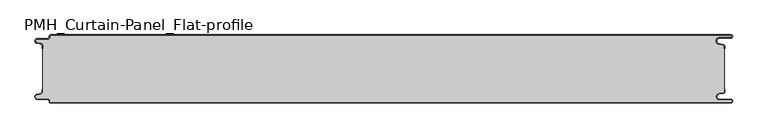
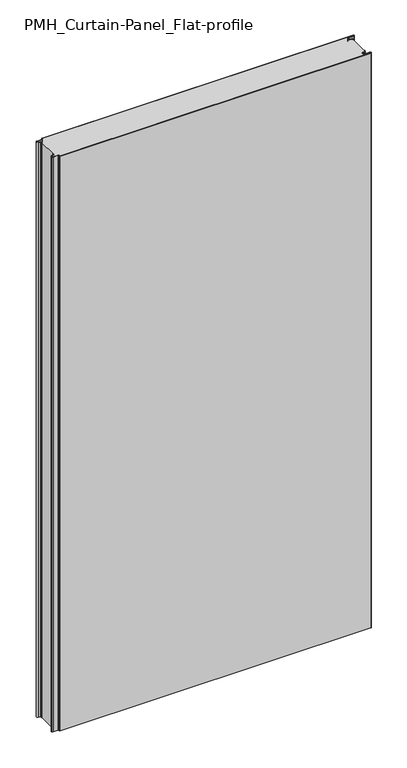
"""IFC4 building model written with IfcOpenShell, lengths in millimetres: plate geometry, PMH_Curtain-Panel_Flat-profile : ACH_PMH_Stone-wool-Panel_100M."""

from ifc_helpers import new_model, si_unit, point, frame, frame_2d, origin, origin_with_axes, place, context, project, spatial, polyline, circle_curve, trimmed, segment, composite_curve, outline, extrude, source, transform, mapped, element, save
from ifc_brep_helpers import plane_surface, cylinder_surface, revolved_surface, advanced_brep


def pmh_curtain_panel_flat_profile_5727f60d(model_context):
    return source(origin(), model_context, "Body", "SolidModel", [
        advanced_brep(
        [(508.1, 0.0, 1945.7507136), (-487.4, 0.0, 1945.7507136), (-489.4, -2.0, 1945.7507136), (-489.4, -3.4, 1945.7507136), (-491.4, -5.4, 1945.7507136), (-506.9, -5.4, 1945.7507136), (-507.7098239, -12.5077322, 1945.7507136), (-501.5500979, -13.929817, 1945.7507136), (-500.0, -15.878557, 1945.7507136), (-500.0, -20.0, 1945.7507136), (-499.2, -20.0, 1945.7507136), (-499.2, -15.878557, 1945.7507136), (-501.370137, -13.1503208, 1945.7507136), (-507.529863, -11.728236, 1945.7507136), (-506.9, -6.2, 1945.7507136), (-491.4, -6.2, 1945.7507136), (-488.6, -3.4, 1945.7507136), (-488.6, -2.0, 1945.7507136), (-487.4, -0.8, 1945.7507136), (508.1, -0.8, 1945.7507136), (508.1, -4.2, 1945.7507136), (491.1, -4.2, 1945.7507136), (490.2664884, -13.7270771, 1945.7507136), (496.7125669, -14.8636953, 1945.7507136), (498.2, -16.6363492, 1945.7507136), (498.2, -20.0, 1945.7507136), (499.0, -20.0, 1945.7507136), (499.0, -16.6363492, 1945.7507136), (496.8514855, -14.0758491, 1945.7507136), (490.405407, -12.939231, 1945.7507136), (491.1, -5.0, 1945.7507136), (508.1, -5.0, 1945.7507136), (510.6, -2.5000002, 1945.7507136), (-487.4, 0.0, 0.0), (508.1, 0.0, 0.0), (510.6, -2.4999998, 0.0), (508.1, -5.0, 0.0), (491.1, -5.0, 0.0), (490.405407, -12.939231, 0.0), (496.8514855, -14.0758491, 0.0), (499.0, -16.6363492, 0.0), (499.0, -20.0, 0.0), (498.2, -20.0, 0.0), (498.2, -16.6363492, 0.0), (496.7125669, -14.8636953, 0.0), (490.2664884, -13.7270771, 0.0), (491.1, -4.2, 0.0), (508.1, -4.2, 0.0), (508.1, -0.8, 0.0), (-487.4, -0.8, 0.0), (-488.6, -2.0, 0.0), (-488.6, -3.4, 0.0), (-491.4, -6.2, 0.0), (-506.9, -6.2, 0.0), (-507.529863, -11.7282362, 0.0), (-501.370137, -13.150321, 0.0), (-499.2, -15.878557, 0.0), (-499.2, -20.0, 0.0), (-500.0, -20.0, 0.0), (-500.0, -15.878557, 0.0), (-501.5500978, -13.9298169, 0.0), (-507.7098239, -12.507732, 0.0), (-506.9, -5.4, 0.0), (-491.4, -5.4, 0.0), (-489.4, -3.4, 0.0), (-489.4, -2.0, 0.0)],
        [
            (0, 1),
            (1, 2, circle_curve(frame((-487.4, -2.0, 1945.7507136), z_axis=(0.0, 0.0, 1.0), x_axis=(1.0, 0.0, 0.0)), 2.0)),
            (2, 3),
            (3, 4, circle_curve(frame((-491.4, -3.4, 1945.7507136), z_axis=(0.0, 0.0, -1.0), x_axis=(1.0, 0.0, 0.0)), 2.0)),
            (4, 5),
            (5, 6, circle_curve(frame((-506.9, -9.0, 1945.7507136), z_axis=(0.0, 0.0, 1.0), x_axis=(1.0, 0.0, 0.0)), 3.6)),
            (6, 7),
            (7, 8, circle_curve(frame((-502.0, -15.878557, 1945.7507136), z_axis=(0.0, 0.0, -1.0), x_axis=(1.0, 0.0, 0.0)), 2.0)),
            (8, 9),
            (9, 10),
            (10, 11),
            (11, 12, circle_curve(frame((-502.0, -15.878557, 1945.7507136), z_axis=(0.0, 0.0, 1.0), x_axis=(1.0, 0.0, 0.0)), 2.8)),
            (12, 13),
            (13, 14, circle_curve(frame((-506.9, -9.0, 1945.7507136), z_axis=(0.0, 0.0, -1.0), x_axis=(1.0, 0.0, 0.0)), 2.8)),
            (14, 15),
            (15, 16, circle_curve(frame((-491.4, -3.4, 1945.7507136), z_axis=(0.0, 0.0, 1.0), x_axis=(1.0, 0.0, 0.0)), 2.8)),
            (16, 17),
            (17, 18, circle_curve(frame((-487.4, -2.0, 1945.7507136), z_axis=(0.0, 0.0, -1.0), x_axis=(1.0, 0.0, 0.0)), 1.2)),
            (18, 19),
            (19, 20, circle_curve(frame((508.1, -2.5, 1945.7507136), z_axis=(0.0, 0.0, -1.0), x_axis=(1.0, 0.0, 0.0)), 1.7)),
            (20, 21),
            (21, 22, circle_curve(frame((491.1, -9.0, 1945.7507136), z_axis=(0.0, 0.0, 1.0), x_axis=(1.0, 0.0, 0.0)), 4.8)),
            (22, 23),
            (23, 24, circle_curve(frame((496.4, -16.6363492, 1945.7507136), z_axis=(0.0, 0.0, -1.0), x_axis=(1.0, 0.0, 0.0)), 1.8)),
            (24, 25),
            (25, 26),
            (26, 27),
            (27, 28, circle_curve(frame((496.4, -16.6363492, 1945.7507136), z_axis=(0.0, 0.0, 1.0), x_axis=(1.0, 0.0, 0.0)), 2.6)),
            (28, 29),
            (29, 30, circle_curve(frame((491.1, -9.0, 1945.7507136), z_axis=(0.0, 0.0, -1.0), x_axis=(1.0, 0.0, 0.0)), 4.0)),
            (30, 31),
            (31, 32, circle_curve(frame((508.1, -2.5, 1945.7507136), z_axis=(0.0, 0.0, 1.0), x_axis=(1.0, 0.0, 0.0)), 2.5)),
            (32, 0, circle_curve(frame((508.1, -2.5, 1945.7507136), z_axis=(0.0, 0.0, 1.0), x_axis=(1.0, 0.0, 0.0)), 2.5)),
            (33, 34),
            (34, 35, circle_curve(frame((508.1, -2.5, 0.0), z_axis=(0.0, 0.0, -1.0), x_axis=(1.0, 0.0, 0.0)), 2.5)),
            (35, 36, circle_curve(frame((508.1, -2.5, 0.0), z_axis=(0.0, 0.0, -1.0), x_axis=(1.0, 0.0, 0.0)), 2.5)),
            (36, 37),
            (37, 38, circle_curve(frame((491.1, -9.0, 0.0), z_axis=(0.0, 0.0, 1.0), x_axis=(1.0, 0.0, 0.0)), 4.0)),
            (38, 39),
            (39, 40, circle_curve(frame((496.4, -16.6363492, 0.0), z_axis=(0.0, 0.0, -1.0), x_axis=(1.0, 0.0, 0.0)), 2.6)),
            (40, 41),
            (41, 42),
            (42, 43),
            (43, 44, circle_curve(frame((496.4, -16.6363492, 0.0), z_axis=(0.0, 0.0, 1.0), x_axis=(1.0, 0.0, 0.0)), 1.8)),
            (44, 45),
            (45, 46, circle_curve(frame((491.1, -9.0, 0.0), z_axis=(0.0, 0.0, -1.0), x_axis=(1.0, 0.0, 0.0)), 4.8)),
            (46, 47),
            (47, 48, circle_curve(frame((508.1, -2.5, 0.0), z_axis=(0.0, 0.0, 1.0), x_axis=(1.0, 0.0, 0.0)), 1.7)),
            (48, 49),
            (49, 50, circle_curve(frame((-487.4, -2.0, 0.0), z_axis=(0.0, 0.0, 1.0), x_axis=(1.0, 0.0, 0.0)), 1.2)),
            (50, 51),
            (51, 52, circle_curve(frame((-491.4, -3.4, 0.0), z_axis=(0.0, 0.0, -1.0), x_axis=(1.0, 0.0, 0.0)), 2.8)),
            (52, 53),
            (53, 54, circle_curve(frame((-506.9, -9.0, 0.0), z_axis=(0.0, 0.0, 1.0), x_axis=(1.0, 0.0, 0.0)), 2.8)),
            (54, 55),
            (55, 56, circle_curve(frame((-502.0, -15.878557, 0.0), z_axis=(0.0, 0.0, -1.0), x_axis=(1.0, 0.0, 0.0)), 2.8)),
            (56, 57),
            (57, 58),
            (58, 59),
            (59, 60, circle_curve(frame((-502.0, -15.878557, 0.0), z_axis=(0.0, 0.0, 1.0), x_axis=(1.0, 0.0, 0.0)), 2.0)),
            (60, 61),
            (61, 62, circle_curve(frame((-506.9, -9.0, 0.0), z_axis=(0.0, 0.0, -1.0), x_axis=(1.0, 0.0, 0.0)), 3.6)),
            (62, 63),
            (63, 64, circle_curve(frame((-491.4, -3.4, 0.0), z_axis=(0.0, 0.0, 1.0), x_axis=(1.0, 0.0, 0.0)), 2.0)),
            (64, 65),
            (65, 33, circle_curve(frame((-487.4, -2.0, 0.0), z_axis=(0.0, 0.0, -1.0), x_axis=(1.0, 0.0, 0.0)), 2.0)),
            (1, 33),
            (65, 2),
            (64, 3),
            (63, 4),
            (62, 5),
            (61, 6),
            (60, 7),
            (59, 8),
            (58, 9),
            (57, 10),
            (56, 11),
            (55, 12),
            (54, 13),
            (53, 14),
            (52, 15),
            (51, 16),
            (50, 17),
            (49, 18),
            (48, 19),
            (47, 20),
            (46, 21),
            (45, 22),
            (44, 23),
            (43, 24),
            (42, 25),
            (41, 26),
            (40, 27),
            (39, 28),
            (38, 29),
            (37, 30),
            (36, 31),
            (34, 0),
        ],
        [
            plane_surface(frame((-500.0, 0.0, 1945.7507136), z_axis=(0.0, 0.0, 1.0), x_axis=(0.0, 1.0, 0.0))),
            plane_surface(frame((-500.0, 0.0, 0.0), z_axis=(0.0, 0.0, -1.0), x_axis=(0.0, 1.0, 0.0))),
            cylinder_surface(frame((-487.4, -2.0, 1945.7507136), z_axis=(0.0, 0.0, 1.0), x_axis=(1.0, 0.0, 0.0)), 2.0),
            plane_surface(frame((-489.4, -2.0, 1945.7507136), z_axis=(-1.0, 0.0, 0.0), x_axis=(0.0, 0.0, -1.0))),
            revolved_surface(polyline([(-489.4, -3.4, 0.0), (-489.4, -3.4, 1945.7507136)]), (-491.4, -3.4, 1945.7507136), (0.0, 0.0, -1.0)),
            plane_surface(frame((-491.4, -5.4, 1945.7507136), z_axis=(0.0, 1.0, 0.0), x_axis=(0.0, 0.0, -1.0))),
            cylinder_surface(frame((-506.9, -9.0, 1945.7507136), z_axis=(0.0, 0.0, 1.0), x_axis=(1.0, 0.0, 0.0)), 3.6),
            plane_surface(frame((-507.7098239, -12.507732, 1945.7507136), z_axis=(-0.2249510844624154, -0.9743700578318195, 0.0), x_axis=(0.0, 0.0, -1.0))),
            revolved_surface(polyline([(-500.0, -15.878557, 0.0), (-500.0, -15.878557, 1945.7507136)]), (-502.0, -15.878557, 1945.7507136), (0.0, 0.0, -1.0)),
            plane_surface(frame((-500.0, -15.878557, 1945.7507136), z_axis=(-1.0, 0.0, 0.0), x_axis=(0.0, 0.0, -1.0))),
            plane_surface(frame((-500.0, -20.0, 1945.7507136), z_axis=(0.0, -1.0, 0.0), x_axis=(0.0, 0.0, -1.0))),
            plane_surface(frame((-499.2, -20.0, 1945.7507136), z_axis=(1.0, 0.0, 0.0), x_axis=(0.0, 0.0, -1.0))),
            cylinder_surface(frame((-502.0, -15.878557, 1945.7507136), z_axis=(0.0, 0.0, 1.0), x_axis=(1.0, 0.0, 0.0)), 2.8),
            plane_surface(frame((-501.370137, -13.150321, 1945.7507136), z_axis=(0.22495108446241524, 0.9743700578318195, 0.0), x_axis=(0.0, 0.0, -1.0))),
            revolved_surface(polyline([(-504.09999999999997, -9.0, 0.0), (-504.09999999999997, -9.0, 1945.7507136)]), (-506.9, -9.0, 1945.7507136), (0.0, 0.0, -1.0)),
            plane_surface(frame((-506.9, -6.2, 1945.7507136), z_axis=(0.0, -1.0, 0.0), x_axis=(0.0, 0.0, -1.0))),
            cylinder_surface(frame((-491.4, -3.4, 1945.7507136), z_axis=(0.0, 0.0, 1.0), x_axis=(1.0, 0.0, 0.0)), 2.8),
            plane_surface(frame((-488.6, -3.4, 1945.7507136), z_axis=(1.0, 0.0, 0.0), x_axis=(0.0, 0.0, -1.0))),
            revolved_surface(polyline([(-486.2, -2.0, 0.0), (-486.2, -2.0, 1945.7507136)]), (-487.4, -2.0, 1945.7507136), (0.0, 0.0, -1.0)),
            plane_surface(frame((-487.4, -0.8, 1945.7507136), z_axis=(0.0, -1.0, 0.0), x_axis=(0.0, 0.0, -1.0))),
            revolved_surface(polyline([(509.8, -2.5, 0.0), (509.8, -2.5, 1945.7507136)]), (508.1, -2.5, 1945.7507136), (0.0, 0.0, -1.0)),
            plane_surface(frame((508.1, -4.2, 1945.7507136), z_axis=(0.0, 1.0, 0.0), x_axis=(0.0, 0.0, -1.0))),
            cylinder_surface(frame((491.1, -9.0, 1945.7507136), z_axis=(0.0, 0.0, 1.0), x_axis=(1.0, 0.0, 0.0)), 4.8),
            plane_surface(frame((490.2664884, -13.7270771, 1945.7507136), z_axis=(-0.17364826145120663, -0.984807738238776, 0.0), x_axis=(0.0, 0.0, -1.0))),
            revolved_surface(polyline([(498.2, -16.6363492, 0.0), (498.2, -16.6363492, 1945.7507136)]), (496.4, -16.6363492, 1945.7507136), (0.0, 0.0, -1.0)),
            plane_surface(frame((498.2, -16.6363492, 1945.7507136), z_axis=(-1.0, 0.0, 0.0), x_axis=(0.0, 0.0, -1.0))),
            plane_surface(frame((498.2, -20.0, 1945.7507136), z_axis=(0.0, -1.0, 0.0), x_axis=(0.0, 0.0, -1.0))),
            plane_surface(frame((499.0, -20.0, 1945.7507136), z_axis=(1.0, 0.0, 0.0), x_axis=(0.0, 0.0, -1.0))),
            cylinder_surface(frame((496.4, -16.6363492, 1945.7507136), z_axis=(0.0, 0.0, 1.0), x_axis=(1.0, 0.0, 0.0)), 2.6),
            plane_surface(frame((496.8514855, -14.0758491, 1945.7507136), z_axis=(0.17364826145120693, 0.9848077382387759, 0.0), x_axis=(0.0, 0.0, -1.0))),
            revolved_surface(polyline([(495.1, -9.0, 0.0), (495.1, -9.0, 1945.7507136)]), (491.1, -9.0, 1945.7507136), (0.0, 0.0, -1.0)),
            plane_surface(frame((491.1, -5.0, 1945.7507136), z_axis=(0.0, -1.0, 0.0), x_axis=(0.0, 0.0, -1.0))),
            cylinder_surface(frame((508.1, -2.5, 1945.7507136), z_axis=(0.0, 0.0, 1.0), x_axis=(1.0, 0.0, 0.0)), 2.5),
            plane_surface(frame((490.5783588, 0.0, 1945.7507136), z_axis=(0.0, 1.0, 0.0), x_axis=(0.0, 0.0, -1.0))),
        ],
        [
            (0, [[1, 2, 3, 4, 5, 6, 7, 8, 9, 10, 11, 12, 13, 14, 15, 16, 17, 18, 19, 20, 21, 22, 23, 24, 25, 26, 27, 28, 29, 30, 31, 32, 33]]),
            (1, [[34, 35, 36, 37, 38, 39, 40, 41, 42, 43, 44, 45, 46, 47, 48, 49, 50, 51, 52, 53, 54, 55, 56, 57, 58, 59, 60, 61, 62, 63, 64, 65, 66]]),
            (2, [[-2, 67, -66, 68]]),
            (3, [[-3, -68, -65, 69]]),
            (4, [[-4, -69, -64, 70]]),
            (5, [[-5, -70, -63, 71]]),
            (6, [[-6, -71, -62, 72]]),
            (7, [[-7, -72, -61, 73]]),
            (8, [[-8, -73, -60, 74]]),
            (9, [[-9, -74, -59, 75]]),
            (10, [[-10, -75, -58, 76]]),
            (11, [[-11, -76, -57, 77]]),
            (12, [[-12, -77, -56, 78]]),
            (13, [[-13, -78, -55, 79]]),
            (14, [[-14, -79, -54, 80]]),
            (15, [[-15, -80, -53, 81]]),
            (16, [[-16, -81, -52, 82]]),
            (17, [[-17, -82, -51, 83]]),
            (18, [[-18, -83, -50, 84]]),
            (19, [[-19, -84, -49, 85]]),
            (20, [[-20, -85, -48, 86]]),
            (21, [[-21, -86, -47, 87]]),
            (22, [[-22, -87, -46, 88]]),
            (23, [[-23, -88, -45, 89]]),
            (24, [[-24, -89, -44, 90]]),
            (25, [[-25, -90, -43, 91]]),
            (26, [[-26, -91, -42, 92]]),
            (27, [[-27, -92, -41, 93]]),
            (28, [[-28, -93, -40, 94]]),
            (29, [[-29, -94, -39, 95]]),
            (30, [[-30, -95, -38, 96]]),
            (31, [[-31, -96, -37, 97]]),
            (32, [[-97, -36, -35, 98, -33, -32]]),
            (33, [[-1, -98, -34, -67]]),
        ],
    ),
        extrude(outline(composite_curve([segment(polyline([(-499.2, -84.1214426), (-499.2, -15.8785573)]), True, "CONTINUOUS"), segment(trimmed(circle_curve(frame_2d((-502.0, -15.8785573)), 2.8), [point((-499.2, -15.8785573))], [point((-501.370137, -13.1503212))], True, "CARTESIAN"), True, "CONTINUOUS"), segment(polyline([(-501.370137, -13.1503212), (-507.5298631, -11.7282362)]), True, "CONTINUOUS"), segment(trimmed(circle_curve(frame_2d((-506.9, -9.0)), 2.8), [point((-507.5298631, -11.7282362))], [point((-506.9, -6.2))], False, "CARTESIAN"), True, "CONTINUOUS"), segment(polyline([(-506.9, -6.2), (-491.4000001, -6.2)]), True, "CONTINUOUS"), segment(trimmed(circle_curve(frame_2d((-491.4000001, -3.4)), 2.8), [point((-491.4000001, -6.2))], [point((-488.6000001, -3.4))], True, "CARTESIAN"), True, "CONTINUOUS"), segment(polyline([(-488.6000001, -3.4), (-488.6000001, -2.0)]), True, "CONTINUOUS"), segment(trimmed(circle_curve(frame_2d((-487.4000001, -2.0)), 1.2), [point((-488.6000001, -2.0))], [point((-487.4000001, -0.8))], False, "CARTESIAN"), True, "CONTINUOUS"), segment(polyline([(-487.4000001, -0.8), (508.1, -0.8)]), True, "CONTINUOUS"), segment(trimmed(circle_curve(frame_2d((508.1, -2.5)), 1.7), [point((508.1, -0.8))], [point((508.1, -4.2))], False, "CARTESIAN"), True, "CONTINUOUS"), segment(polyline([(508.1, -4.2), (491.1, -4.2)]), True, "CONTINUOUS"), segment(trimmed(circle_curve(frame_2d((491.1, -9.0)), 4.8), [point((491.1, -4.2))], [point((490.2664883, -13.7270771))], True, "CARTESIAN"), True, "CONTINUOUS"), segment(polyline([(490.2664883, -13.7270771), (496.7125668, -14.8636953)]), True, "CONTINUOUS"), segment(trimmed(circle_curve(frame_2d((496.4, -16.6363492)), 1.8), [point((496.7125668, -14.8636953))], [point((498.2, -16.6363492))], False, "CARTESIAN"), True, "CONTINUOUS"), segment(polyline([(498.2, -16.6363492), (498.2, -83.3636508)]), True, "CONTINUOUS"), segment(trimmed(circle_curve(frame_2d((496.4, -83.3636508)), 1.8), [point((498.2, -83.3636508))], [point((496.7125668, -85.1363047))], False, "CARTESIAN"), True, "CONTINUOUS"), segment(polyline([(496.7125668, -85.1363047), (490.2664883, -86.2729229)]), True, "CONTINUOUS"), segment(trimmed(circle_curve(frame_2d((491.1, -91.0)), 4.8), [point((490.2664883, -86.2729229))], [point((491.1, -95.8))], True, "CARTESIAN"), True, "CONTINUOUS"), segment(polyline([(491.1, -95.8), (508.1, -95.8)]), True, "CONTINUOUS"), segment(trimmed(circle_curve(frame_2d((508.1, -97.5)), 1.7), [point((508.1, -95.8))], [point((508.1, -99.2))], False, "CARTESIAN"), True, "CONTINUOUS"), segment(polyline([(508.1, -99.2), (-487.4000001, -99.2)]), True, "CONTINUOUS"), segment(trimmed(circle_curve(frame_2d((-487.4000001, -98.0)), 1.2), [point((-487.4000001, -99.2))], [point((-488.6000001, -98.0))], False, "CARTESIAN"), True, "CONTINUOUS"), segment(polyline([(-488.6000001, -98.0), (-488.6000001, -96.6)]), True, "CONTINUOUS"), segment(trimmed(circle_curve(frame_2d((-491.4000001, -96.6)), 2.8), [point((-488.6000001, -96.6))], [point((-491.4000001, -93.8))], True, "CARTESIAN"), True, "CONTINUOUS"), segment(polyline([(-491.4000001, -93.8), (-506.9, -93.8)]), True, "CONTINUOUS"), segment(trimmed(circle_curve(frame_2d((-506.9, -91.0)), 2.8), [point((-506.9, -93.8))], [point((-507.5298631, -88.2717638))], False, "CARTESIAN"), True, "CONTINUOUS"), segment(polyline([(-507.5298631, -88.2717638), (-501.370137, -86.8496788)]), True, "CONTINUOUS"), segment(trimmed(circle_curve(frame_2d((-502.0, -84.1214426)), 2.8), [point((-501.370137, -86.8496788))], [point((-499.2, -84.1214426))], True, "CARTESIAN"), True, "CONTINUOUS")], self_intersect=False)), origin_with_axes(), (0.0, 0.0, 1.0), 1945.7507136),
        advanced_brep(
        [(-487.4, -100.0, 1945.7507136), (508.1, -100.0, 1945.7507136), (510.6, -97.5000002, 1945.7507136), (508.1, -95.0, 1945.7507136), (491.1, -95.0, 1945.7507136), (490.405407, -87.060769, 1945.7507136), (496.8514855, -85.9241509, 1945.7507136), (499.0, -83.3636508, 1945.7507136), (499.0, -80.0, 1945.7507136), (498.2, -80.0, 1945.7507136), (498.2, -83.3636508, 1945.7507136), (496.7125669, -85.1363047, 1945.7507136), (490.2664884, -86.2729229, 1945.7507136), (491.1, -95.8, 1945.7507136), (508.1, -95.8, 1945.7507136), (508.1, -99.2, 1945.7507136), (-487.4, -99.2, 1945.7507136), (-488.6, -98.0, 1945.7507136), (-488.6, -96.6, 1945.7507136), (-491.4, -93.8, 1945.7507136), (-506.9, -93.8, 1945.7507136), (-507.529863, -88.2717638, 1945.7507136), (-501.370137, -86.849679, 1945.7507136), (-499.2, -84.121443, 1945.7507136), (-499.2, -80.0, 1945.7507136), (-500.0, -80.0, 1945.7507136), (-500.0, -84.121443, 1945.7507136), (-501.5500978, -86.0701831, 1945.7507136), (-507.7098239, -87.492268, 1945.7507136), (-506.9, -94.6, 1945.7507136), (-491.4, -94.6, 1945.7507136), (-489.4, -96.6, 1945.7507136), (-489.4, -98.0, 1945.7507136), (508.1, -100.0, 0.0), (-487.4, -100.0, 0.0), (-489.4, -98.0, 0.0), (-489.4, -96.6, 0.0), (-491.4, -94.6, 0.0), (-506.9, -94.6, 0.0), (-507.7098239, -87.4922678, 0.0), (-501.5500979, -86.070183, 0.0), (-500.0, -84.121443, 0.0), (-500.0, -80.0, 0.0), (-499.2, -80.0, 0.0), (-499.2, -84.121443, 0.0), (-501.370137, -86.8496792, 0.0), (-507.529863, -88.271764, 0.0), (-506.9, -93.8, 0.0), (-491.4, -93.8, 0.0), (-488.6, -96.6, 0.0), (-488.6, -98.0, 0.0), (-487.4, -99.2, 0.0), (508.1, -99.2, 0.0), (508.1, -95.8, 0.0), (491.1, -95.8, 0.0), (490.2664884, -86.2729229, 0.0), (496.7125669, -85.1363047, 0.0), (498.2, -83.3636508, 0.0), (498.2, -80.0, 0.0), (499.0, -80.0, 0.0), (499.0, -83.3636508, 0.0), (496.8514855, -85.9241509, 0.0), (490.405407, -87.060769, 0.0), (491.1, -95.0, 0.0), (508.1, -95.0, 0.0), (510.6, -97.4999998, 0.0)],
        [
            (0, 1),
            (1, 2, circle_curve(frame((508.1, -97.5, 1945.7507136), z_axis=(0.0, 0.0, 1.0), x_axis=(1.0, 0.0, 0.0)), 2.5)),
            (2, 3, circle_curve(frame((508.1, -97.5, 1945.7507136), z_axis=(0.0, 0.0, 1.0), x_axis=(1.0, 0.0, 0.0)), 2.5)),
            (3, 4),
            (4, 5, circle_curve(frame((491.1, -91.0, 1945.7507136), z_axis=(0.0, 0.0, -1.0), x_axis=(1.0, 0.0, 0.0)), 4.0)),
            (5, 6),
            (6, 7, circle_curve(frame((496.4, -83.3636508, 1945.7507136), z_axis=(0.0, 0.0, 1.0), x_axis=(1.0, 0.0, 0.0)), 2.6)),
            (7, 8),
            (8, 9),
            (9, 10),
            (10, 11, circle_curve(frame((496.4, -83.3636508, 1945.7507136), z_axis=(0.0, 0.0, -1.0), x_axis=(1.0, 0.0, 0.0)), 1.8)),
            (11, 12),
            (12, 13, circle_curve(frame((491.1, -91.0, 1945.7507136), z_axis=(0.0, 0.0, 1.0), x_axis=(1.0, 0.0, 0.0)), 4.8)),
            (13, 14),
            (14, 15, circle_curve(frame((508.1, -97.5, 1945.7507136), z_axis=(0.0, 0.0, -1.0), x_axis=(1.0, 0.0, 0.0)), 1.7)),
            (15, 16),
            (16, 17, circle_curve(frame((-487.4, -98.0, 1945.7507136), z_axis=(0.0, 0.0, -1.0), x_axis=(1.0, 0.0, 0.0)), 1.2)),
            (17, 18),
            (18, 19, circle_curve(frame((-491.4, -96.6, 1945.7507136), z_axis=(0.0, 0.0, 1.0), x_axis=(1.0, 0.0, 0.0)), 2.8)),
            (19, 20),
            (20, 21, circle_curve(frame((-506.9, -91.0, 1945.7507136), z_axis=(0.0, 0.0, -1.0), x_axis=(1.0, 0.0, 0.0)), 2.8)),
            (21, 22),
            (22, 23, circle_curve(frame((-502.0, -84.121443, 1945.7507136), z_axis=(0.0, 0.0, 1.0), x_axis=(1.0, 0.0, 0.0)), 2.8)),
            (23, 24),
            (24, 25),
            (25, 26),
            (26, 27, circle_curve(frame((-502.0, -84.121443, 1945.7507136), z_axis=(0.0, 0.0, -1.0), x_axis=(1.0, 0.0, 0.0)), 2.0)),
            (27, 28),
            (28, 29, circle_curve(frame((-506.9, -91.0, 1945.7507136), z_axis=(0.0, 0.0, 1.0), x_axis=(1.0, 0.0, 0.0)), 3.6)),
            (29, 30),
            (30, 31, circle_curve(frame((-491.4, -96.6, 1945.7507136), z_axis=(0.0, 0.0, -1.0), x_axis=(1.0, 0.0, 0.0)), 2.0)),
            (31, 32),
            (32, 0, circle_curve(frame((-487.4, -98.0, 1945.7507136), z_axis=(0.0, 0.0, 1.0), x_axis=(1.0, 0.0, 0.0)), 2.0)),
            (33, 34),
            (34, 35, circle_curve(frame((-487.4, -98.0, 0.0), z_axis=(0.0, 0.0, -1.0), x_axis=(1.0, 0.0, 0.0)), 2.0)),
            (35, 36),
            (36, 37, circle_curve(frame((-491.4, -96.6, 0.0), z_axis=(0.0, 0.0, 1.0), x_axis=(1.0, 0.0, 0.0)), 2.0)),
            (37, 38),
            (38, 39, circle_curve(frame((-506.9, -91.0, 0.0), z_axis=(0.0, 0.0, -1.0), x_axis=(1.0, 0.0, 0.0)), 3.6)),
            (39, 40),
            (40, 41, circle_curve(frame((-502.0, -84.121443, 0.0), z_axis=(0.0, 0.0, 1.0), x_axis=(1.0, 0.0, 0.0)), 2.0)),
            (41, 42),
            (42, 43),
            (43, 44),
            (44, 45, circle_curve(frame((-502.0, -84.121443, 0.0), z_axis=(0.0, 0.0, -1.0), x_axis=(1.0, 0.0, 0.0)), 2.8)),
            (45, 46),
            (46, 47, circle_curve(frame((-506.9, -91.0, 0.0), z_axis=(0.0, 0.0, 1.0), x_axis=(1.0, 0.0, 0.0)), 2.8)),
            (47, 48),
            (48, 49, circle_curve(frame((-491.4, -96.6, 0.0), z_axis=(0.0, 0.0, -1.0), x_axis=(1.0, 0.0, 0.0)), 2.8)),
            (49, 50),
            (50, 51, circle_curve(frame((-487.4, -98.0, 0.0), z_axis=(0.0, 0.0, 1.0), x_axis=(1.0, 0.0, 0.0)), 1.2)),
            (51, 52),
            (52, 53, circle_curve(frame((508.1, -97.5, 0.0), z_axis=(0.0, 0.0, 1.0), x_axis=(1.0, 0.0, 0.0)), 1.7)),
            (53, 54),
            (54, 55, circle_curve(frame((491.1, -91.0, 0.0), z_axis=(0.0, 0.0, -1.0), x_axis=(1.0, 0.0, 0.0)), 4.8)),
            (55, 56),
            (56, 57, circle_curve(frame((496.4, -83.3636508, 0.0), z_axis=(0.0, 0.0, 1.0), x_axis=(1.0, 0.0, 0.0)), 1.8)),
            (57, 58),
            (58, 59),
            (59, 60),
            (60, 61, circle_curve(frame((496.4, -83.3636508, 0.0), z_axis=(0.0, 0.0, -1.0), x_axis=(1.0, 0.0, 0.0)), 2.6)),
            (61, 62),
            (62, 63, circle_curve(frame((491.1, -91.0, 0.0), z_axis=(0.0, 0.0, 1.0), x_axis=(1.0, 0.0, 0.0)), 4.0)),
            (63, 64),
            (64, 65, circle_curve(frame((508.1, -97.5, 0.0), z_axis=(0.0, 0.0, -1.0), x_axis=(1.0, 0.0, 0.0)), 2.5)),
            (65, 33, circle_curve(frame((508.1, -97.5, 0.0), z_axis=(0.0, 0.0, -1.0), x_axis=(1.0, 0.0, 0.0)), 2.5)),
            (0, 34),
            (33, 1),
            (64, 3),
            (63, 4),
            (62, 5),
            (61, 6),
            (60, 7),
            (59, 8),
            (58, 9),
            (57, 10),
            (56, 11),
            (55, 12),
            (54, 13),
            (53, 14),
            (52, 15),
            (51, 16),
            (50, 17),
            (49, 18),
            (48, 19),
            (47, 20),
            (46, 21),
            (45, 22),
            (44, 23),
            (43, 24),
            (42, 25),
            (41, 26),
            (40, 27),
            (39, 28),
            (38, 29),
            (37, 30),
            (36, 31),
            (35, 32),
        ],
        [
            plane_surface(frame((-500.0, -100.0, 1945.7507136), z_axis=(0.0, 0.0, 1.0), x_axis=(0.0, 1.0, 0.0))),
            plane_surface(frame((-500.0, -100.0, 0.0), z_axis=(0.0, 0.0, -1.0), x_axis=(0.0, 1.0, 0.0))),
            plane_surface(frame((490.5783588, -100.0, 1945.7507136), z_axis=(0.0, -1.0, 0.0), x_axis=(0.0, 0.0, -1.0))),
            cylinder_surface(frame((508.1, -97.5, 1945.7507136), z_axis=(0.0, 0.0, 1.0), x_axis=(1.0, 0.0, 0.0)), 2.5),
            plane_surface(frame((508.1, -95.0, 1945.7507136), z_axis=(0.0, 1.0, 0.0), x_axis=(0.0, 0.0, -1.0))),
            revolved_surface(polyline([(495.1, -91.0, 0.0), (495.1, -91.0, 1945.7507136)]), (491.1, -91.0, 1945.7507136), (0.0, 0.0, -1.0)),
            plane_surface(frame((490.405407, -87.060769, 1945.7507136), z_axis=(0.17364826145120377, -0.9848077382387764, 0.0), x_axis=(0.0, 0.0, -1.0))),
            cylinder_surface(frame((496.4, -83.3636508, 1945.7507136), z_axis=(0.0, 0.0, 1.0), x_axis=(1.0, 0.0, 0.0)), 2.6),
            plane_surface(frame((499.0, -83.3636508, 1945.7507136), z_axis=(1.0, 0.0, 0.0), x_axis=(0.0, 0.0, -1.0))),
            plane_surface(frame((499.0, -80.0, 1945.7507136), z_axis=(0.0, 1.0, 0.0), x_axis=(0.0, 0.0, -1.0))),
            plane_surface(frame((498.2, -80.0, 1945.7507136), z_axis=(-1.0, 0.0, 0.0), x_axis=(0.0, 0.0, -1.0))),
            revolved_surface(polyline([(498.2, -83.3636508, 0.0), (498.2, -83.3636508, 1945.7507136)]), (496.4, -83.3636508, 1945.7507136), (0.0, 0.0, -1.0)),
            plane_surface(frame((496.7125669, -85.1363047, 1945.7507136), z_axis=(-0.17364826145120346, 0.9848077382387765, 0.0), x_axis=(0.0, 0.0, -1.0))),
            cylinder_surface(frame((491.1, -91.0, 1945.7507136), z_axis=(0.0, 0.0, 1.0), x_axis=(1.0, 0.0, 0.0)), 4.8),
            plane_surface(frame((491.1, -95.8, 1945.7507136), z_axis=(0.0, -1.0, 0.0), x_axis=(0.0, 0.0, -1.0))),
            revolved_surface(polyline([(509.8, -97.5, 0.0), (509.8, -97.5, 1945.7507136)]), (508.1, -97.5, 1945.7507136), (0.0, 0.0, -1.0)),
            plane_surface(frame((508.1, -99.2, 1945.7507136), z_axis=(0.0, 1.0, 0.0), x_axis=(0.0, 0.0, -1.0))),
            revolved_surface(polyline([(-486.2, -98.0, 0.0), (-486.2, -98.0, 1945.7507136)]), (-487.4, -98.0, 1945.7507136), (0.0, 0.0, -1.0)),
            plane_surface(frame((-488.6, -98.0, 1945.7507136), z_axis=(1.0, 0.0, 0.0), x_axis=(0.0, 0.0, -1.0))),
            cylinder_surface(frame((-491.4, -96.6, 1945.7507136), z_axis=(0.0, 0.0, 1.0), x_axis=(1.0, 0.0, 0.0)), 2.8),
            plane_surface(frame((-491.4, -93.8, 1945.7507136), z_axis=(0.0, 1.0, 0.0), x_axis=(0.0, 0.0, -1.0))),
            revolved_surface(polyline([(-504.09999999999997, -91.0, 0.0), (-504.09999999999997, -91.0, 1945.7507136)]), (-506.9, -91.0, 1945.7507136), (0.0, 0.0, -1.0)),
            plane_surface(frame((-507.529863, -88.271764, 1945.7507136), z_axis=(0.2249510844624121, -0.9743700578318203, 0.0), x_axis=(0.0, 0.0, -1.0))),
            cylinder_surface(frame((-502.0, -84.121443, 1945.7507136), z_axis=(0.0, 0.0, 1.0), x_axis=(1.0, 0.0, 0.0)), 2.8),
            plane_surface(frame((-499.2, -84.121443, 1945.7507136), z_axis=(1.0, 0.0, 0.0), x_axis=(0.0, 0.0, -1.0))),
            plane_surface(frame((-499.2, -80.0, 1945.7507136), z_axis=(0.0, 1.0, 0.0), x_axis=(0.0, 0.0, -1.0))),
            plane_surface(frame((-500.0, -80.0, 1945.7507136), z_axis=(-1.0, 0.0, 0.0), x_axis=(0.0, 0.0, -1.0))),
            revolved_surface(polyline([(-500.0, -84.121443, 0.0), (-500.0, -84.121443, 1945.7507136)]), (-502.0, -84.121443, 1945.7507136), (0.0, 0.0, -1.0)),
            plane_surface(frame((-501.5500979, -86.070183, 1945.7507136), z_axis=(-0.22495108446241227, 0.9743700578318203, 0.0), x_axis=(0.0, 0.0, -1.0))),
            cylinder_surface(frame((-506.9, -91.0, 1945.7507136), z_axis=(0.0, 0.0, 1.0), x_axis=(1.0, 0.0, 0.0)), 3.6),
            plane_surface(frame((-506.9, -94.6, 1945.7507136), z_axis=(0.0, -1.0, 0.0), x_axis=(0.0, 0.0, -1.0))),
            revolved_surface(polyline([(-489.4, -96.6, 0.0), (-489.4, -96.6, 1945.7507136)]), (-491.4, -96.6, 1945.7507136), (0.0, 0.0, -1.0)),
            plane_surface(frame((-489.4, -96.6, 1945.7507136), z_axis=(-1.0, 0.0, 0.0), x_axis=(0.0, 0.0, -1.0))),
            cylinder_surface(frame((-487.4, -98.0, 1945.7507136), z_axis=(0.0, 0.0, 1.0), x_axis=(1.0, 0.0, 0.0)), 2.0),
        ],
        [
            (0, [[1, 2, 3, 4, 5, 6, 7, 8, 9, 10, 11, 12, 13, 14, 15, 16, 17, 18, 19, 20, 21, 22, 23, 24, 25, 26, 27, 28, 29, 30, 31, 32, 33]]),
            (1, [[34, 35, 36, 37, 38, 39, 40, 41, 42, 43, 44, 45, 46, 47, 48, 49, 50, 51, 52, 53, 54, 55, 56, 57, 58, 59, 60, 61, 62, 63, 64, 65, 66]]),
            (2, [[-1, 67, -34, 68]]),
            (3, [[-68, -66, -65, 69, -3, -2]]),
            (4, [[-4, -69, -64, 70]]),
            (5, [[-5, -70, -63, 71]]),
            (6, [[-6, -71, -62, 72]]),
            (7, [[-7, -72, -61, 73]]),
            (8, [[-8, -73, -60, 74]]),
            (9, [[-9, -74, -59, 75]]),
            (10, [[-10, -75, -58, 76]]),
            (11, [[-11, -76, -57, 77]]),
            (12, [[-12, -77, -56, 78]]),
            (13, [[-13, -78, -55, 79]]),
            (14, [[-14, -79, -54, 80]]),
            (15, [[-15, -80, -53, 81]]),
            (16, [[-16, -81, -52, 82]]),
            (17, [[-17, -82, -51, 83]]),
            (18, [[-18, -83, -50, 84]]),
            (19, [[-19, -84, -49, 85]]),
            (20, [[-20, -85, -48, 86]]),
            (21, [[-21, -86, -47, 87]]),
            (22, [[-22, -87, -46, 88]]),
            (23, [[-23, -88, -45, 89]]),
            (24, [[-24, -89, -44, 90]]),
            (25, [[-25, -90, -43, 91]]),
            (26, [[-26, -91, -42, 92]]),
            (27, [[-27, -92, -41, 93]]),
            (28, [[-28, -93, -40, 94]]),
            (29, [[-29, -94, -39, 95]]),
            (30, [[-30, -95, -38, 96]]),
            (31, [[-31, -96, -37, 97]]),
            (32, [[-32, -97, -36, 98]]),
            (33, [[-33, -98, -35, -67]]),
        ],
    ),
    ])


if __name__ == "__main__":
    model = new_model("IFC4")
    model_context = context("Model", 3, world=origin())
    ifc_project = project(units=[si_unit("LENGTHUNIT", "METRE", prefix="MILLI")], contexts=[model_context])
    site = spatial("IfcSite", under=ifc_project)
    building = spatial("IfcBuilding", under=site)
    placement = place(None, origin())
    pmh_curtain_panel_flat_profile_shape = pmh_curtain_panel_flat_profile_5727f60d(model_context)
    element("IfcPlate", 1, ObjectType="PMH_Curtain-Panel_Flat-profile : ACH_PMH_Stone-wool-Panel_100M", at=placement, inside=building, context=model_context, shape_type="MappedRepresentation", body=[
        mapped(pmh_curtain_panel_flat_profile_shape, transform((0.0, 0.0, 0.0), x_axis=(1.0, 0.0, 0.0), y_axis=(0.0, 1.0, 0.0), z_axis=(0.0, 0.0, 1.0))),
    ])
    save(model, "model.ifc")
